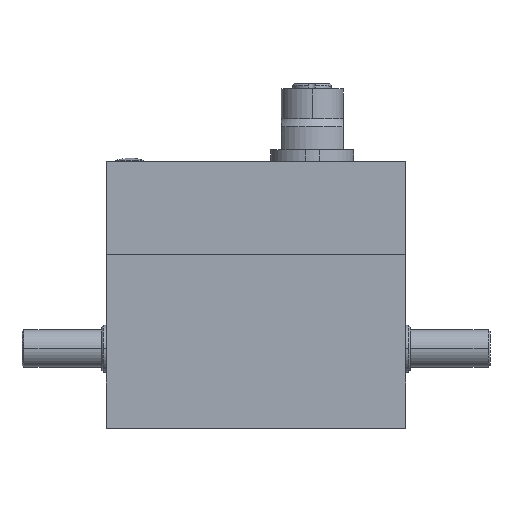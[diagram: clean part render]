
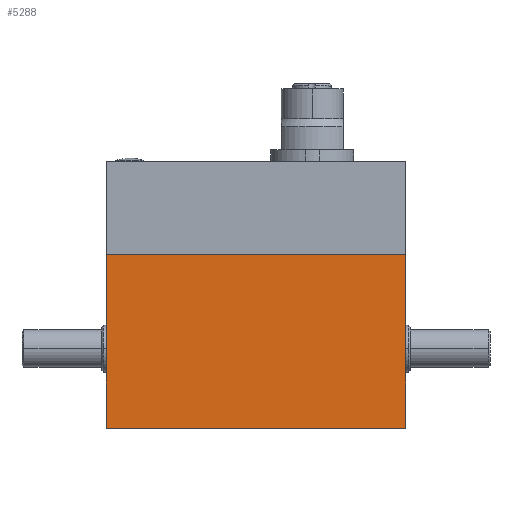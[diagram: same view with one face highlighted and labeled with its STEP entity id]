
A CAD part, top view. The second image highlights one B-rep face of the part: STEP entity #5288.
In plain terms, the highlighted planar face has unit normal (0, 0, 1).
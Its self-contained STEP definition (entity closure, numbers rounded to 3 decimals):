
#390 = ORIENTED_EDGE ( 'NONE', *, *, #831, .T. ) ;
#831 = EDGE_CURVE ( 'NONE', #9913, #14119, #10989, .T. ) ;
#1323 = DIRECTION ( 'NONE',  ( 0., 0., -1. ) ) ;
#1780 = DIRECTION ( 'NONE',  ( 1., 0., 0. ) ) ;
#2241 = ORIENTED_EDGE ( 'NONE', *, *, #7112, .T. ) ;
#2609 = DIRECTION ( 'NONE',  ( -1., 0., 0. ) ) ;
#2853 = ORIENTED_EDGE ( 'NONE', *, *, #12094, .F. ) ;
#3475 = CARTESIAN_POINT ( 'NONE',  ( 32., -18.5, 17. ) ) ;
#5288 = ADVANCED_FACE ( 'NONE', ( #7500 ), #5691, .F. ) ;
#5641 = CARTESIAN_POINT ( 'NONE',  ( 32., 18.49, 17. ) ) ;
#5691 = PLANE ( 'NONE',  #8234 ) ;
#5976 = CARTESIAN_POINT ( 'NONE',  ( 32., 18.5, 17. ) ) ;
#6326 = DIRECTION ( 'NONE',  ( 0., -1., 0. ) ) ;
#6374 = VECTOR ( 'NONE', #1780, 1000. ) ;
#7112 = EDGE_CURVE ( 'NONE', #17300, #16419, #10309, .T. ) ;
#7500 = FACE_OUTER_BOUND ( 'NONE', #18919, .T. ) ;
#8234 = AXIS2_PLACEMENT_3D ( 'NONE', #5976, #1323, #10637 ) ;
#9110 = VECTOR ( 'NONE', #2609, 1000. ) ;
#9913 = VERTEX_POINT ( 'NONE', #13175 ) ;
#10091 = CARTESIAN_POINT ( 'NONE',  ( 32., 18.5, 17. ) ) ;
#10309 = LINE ( 'NONE', #5641, #9110 ) ;
#10637 = DIRECTION ( 'NONE',  ( -1., 0., 0. ) ) ;
#10784 = CARTESIAN_POINT ( 'NONE',  ( -32., 18.5, 17. ) ) ;
#10891 = CARTESIAN_POINT ( 'NONE',  ( 32., -18.5, 17. ) ) ;
#10989 = LINE ( 'NONE', #10891, #6374 ) ;
#11999 = CARTESIAN_POINT ( 'NONE',  ( -32., 18.49, 17. ) ) ;
#12094 = EDGE_CURVE ( 'NONE', #17300, #14119, #13328, .T. ) ;
#12194 = LINE ( 'NONE', #10784, #12615 ) ;
#12487 = EDGE_CURVE ( 'NONE', #16419, #9913, #12194, .T. ) ;
#12615 = VECTOR ( 'NONE', #6326, 1000. ) ;
#13175 = CARTESIAN_POINT ( 'NONE',  ( -32., -18.5, 17. ) ) ;
#13328 = LINE ( 'NONE', #10091, #18116 ) ;
#13459 = ORIENTED_EDGE ( 'NONE', *, *, #12487, .T. ) ;
#14119 = VERTEX_POINT ( 'NONE', #3475 ) ;
#16268 = DIRECTION ( 'NONE',  ( 0., -1., 0. ) ) ;
#16419 = VERTEX_POINT ( 'NONE', #11999 ) ;
#16426 = CARTESIAN_POINT ( 'NONE',  ( 32., 18.49, 17. ) ) ;
#17300 = VERTEX_POINT ( 'NONE', #16426 ) ;
#18116 = VECTOR ( 'NONE', #16268, 1000. ) ;
#18919 = EDGE_LOOP ( 'NONE', ( #2853, #2241, #13459, #390 ) ) ;
